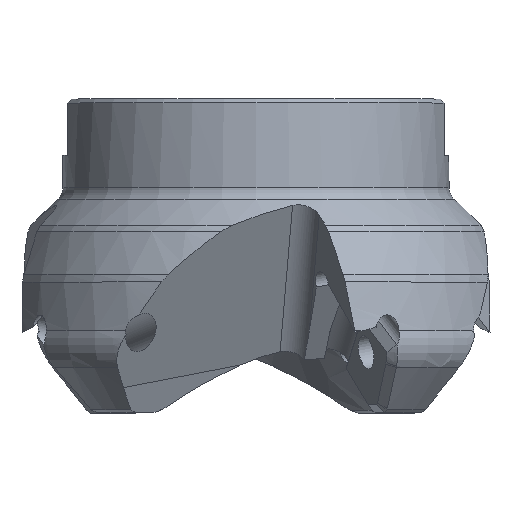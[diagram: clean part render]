
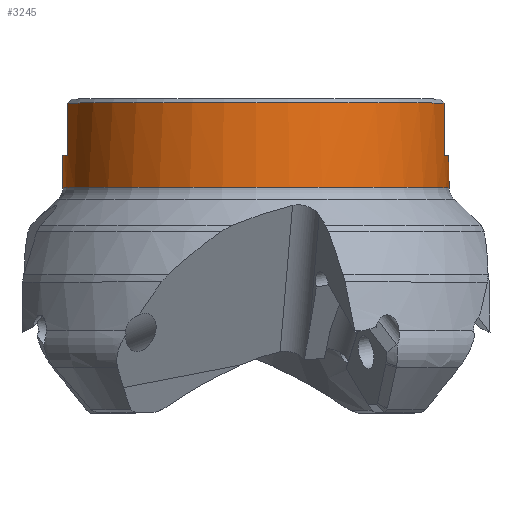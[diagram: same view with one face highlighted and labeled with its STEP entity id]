
A CAD part, top view. The second image highlights one B-rep face of the part: STEP entity #3245.
In plain terms, the highlighted cylindrical face has radius 24 mm (diameter 48 mm), a full revolution.
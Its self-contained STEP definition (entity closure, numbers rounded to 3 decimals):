
#120=CYLINDRICAL_SURFACE('',#3569,24.);
#195=CIRCLE('',#3508,24.);
#198=CIRCLE('',#3517,24.);
#209=CIRCLE('',#3546,24.);
#210=CIRCLE('',#3547,24.);
#211=CIRCLE('',#3549,24.);
#224=CIRCLE('',#3570,24.);
#225=CIRCLE('',#3571,24.);
#226=CIRCLE('',#3572,24.);
#375=LINE('',#6584,#517);
#376=LINE('',#6608,#518);
#387=LINE('',#6641,#529);
#388=LINE('',#6665,#530);
#404=LINE('',#6765,#546);
#517=VECTOR('',#4169,10.);
#518=VECTOR('',#4178,10.);
#529=VECTOR('',#4199,10.);
#530=VECTOR('',#4208,10.);
#546=VECTOR('',#4328,24.);
#855=FACE_OUTER_BOUND('',#1031,.T.);
#1031=EDGE_LOOP('',(#3032,#3033,#3034,#3035,#3036,#3037,#3038,#3039,#3040,
#3041,#3042,#3043,#3044,#3045));
#1463=VERTEX_POINT('',#6581);
#1464=VERTEX_POINT('',#6583);
#1465=VERTEX_POINT('',#6590);
#1469=VERTEX_POINT('',#6607);
#1479=VERTEX_POINT('',#6638);
#1480=VERTEX_POINT('',#6640);
#1481=VERTEX_POINT('',#6647);
#1485=VERTEX_POINT('',#6664);
#1497=VERTEX_POINT('',#6722);
#1509=VERTEX_POINT('',#6760);
#1510=VERTEX_POINT('',#6761);
#1511=VERTEX_POINT('',#6763);
#1949=EDGE_CURVE('',#1463,#1464,#375,.T.);
#1951=EDGE_CURVE('',#1464,#1465,#195,.T.);
#1956=EDGE_CURVE('',#1465,#1469,#376,.T.);
#1970=EDGE_CURVE('',#1479,#1480,#387,.T.);
#1972=EDGE_CURVE('',#1480,#1481,#198,.T.);
#1977=EDGE_CURVE('',#1481,#1485,#388,.T.);
#2004=EDGE_CURVE('',#1463,#1497,#209,.T.);
#2005=EDGE_CURVE('',#1497,#1485,#210,.T.);
#2006=EDGE_CURVE('',#1479,#1469,#211,.T.);
#2021=EDGE_CURVE('',#1509,#1510,#224,.T.);
#2022=EDGE_CURVE('',#1511,#1509,#225,.T.);
#2023=EDGE_CURVE('',#1511,#1497,#404,.T.);
#2024=EDGE_CURVE('',#1510,#1511,#226,.T.);
#3032=ORIENTED_EDGE('',*,*,#2021,.F.);
#3033=ORIENTED_EDGE('',*,*,#2022,.F.);
#3034=ORIENTED_EDGE('',*,*,#2023,.T.);
#3035=ORIENTED_EDGE('',*,*,#2005,.T.);
#3036=ORIENTED_EDGE('',*,*,#1977,.F.);
#3037=ORIENTED_EDGE('',*,*,#1972,.F.);
#3038=ORIENTED_EDGE('',*,*,#1970,.F.);
#3039=ORIENTED_EDGE('',*,*,#2006,.T.);
#3040=ORIENTED_EDGE('',*,*,#1956,.F.);
#3041=ORIENTED_EDGE('',*,*,#1951,.F.);
#3042=ORIENTED_EDGE('',*,*,#1949,.F.);
#3043=ORIENTED_EDGE('',*,*,#2004,.T.);
#3044=ORIENTED_EDGE('',*,*,#2023,.F.);
#3045=ORIENTED_EDGE('',*,*,#2024,.F.);
#3245=ADVANCED_FACE('',(#855),#120,.T.);
#3508=AXIS2_PLACEMENT_3D('',#6591,#4172,#4173);
#3517=AXIS2_PLACEMENT_3D('',#6648,#4202,#4203);
#3546=AXIS2_PLACEMENT_3D('',#6723,#4274,#4275);
#3547=AXIS2_PLACEMENT_3D('',#6724,#4276,#4277);
#3549=AXIS2_PLACEMENT_3D('',#6726,#4280,#4281);
#3569=AXIS2_PLACEMENT_3D('',#6759,#4322,#4323);
#3570=AXIS2_PLACEMENT_3D('',#6762,#4324,#4325);
#3571=AXIS2_PLACEMENT_3D('',#6764,#4326,#4327);
#3572=AXIS2_PLACEMENT_3D('',#6766,#4329,#4330);
#4169=DIRECTION('',(0.,1.,0.));
#4172=DIRECTION('center_axis',(0.,1.,0.));
#4173=DIRECTION('ref_axis',(1.,0.,0.));
#4178=DIRECTION('',(0.,-1.,0.));
#4199=DIRECTION('',(0.,1.,0.));
#4202=DIRECTION('center_axis',(0.,1.,0.));
#4203=DIRECTION('ref_axis',(1.,0.,0.));
#4208=DIRECTION('',(0.,-1.,0.));
#4274=DIRECTION('center_axis',(0.,-1.,0.));
#4275=DIRECTION('ref_axis',(1.,0.,0.));
#4276=DIRECTION('center_axis',(0.,-1.,0.));
#4277=DIRECTION('ref_axis',(1.,0.,0.));
#4280=DIRECTION('center_axis',(0.,-1.,0.));
#4281=DIRECTION('ref_axis',(1.,0.,0.));
#4322=DIRECTION('center_axis',(0.,-1.,0.));
#4323=DIRECTION('ref_axis',(1.,0.,0.));
#4324=DIRECTION('center_axis',(0.,-1.,0.));
#4325=DIRECTION('ref_axis',(1.,0.,0.));
#4326=DIRECTION('center_axis',(0.,-1.,0.));
#4327=DIRECTION('ref_axis',(1.,0.,0.));
#4328=DIRECTION('',(0.,1.,0.));
#4329=DIRECTION('center_axis',(0.,-1.,0.));
#4330=DIRECTION('ref_axis',(1.,0.,0.));
#6581=CARTESIAN_POINT('',(-23.364,32.,5.488));
#6583=CARTESIAN_POINT('',(-23.364,38.5,5.488));
#6584=CARTESIAN_POINT('',(-23.364,33.5,5.488));
#6590=CARTESIAN_POINT('',(23.364,38.5,5.488));
#6591=CARTESIAN_POINT('Origin',(0.,38.5,0.));
#6607=CARTESIAN_POINT('',(23.364,32.,5.488));
#6608=CARTESIAN_POINT('',(23.364,33.5,5.488));
#6638=CARTESIAN_POINT('',(23.364,32.,-5.488));
#6640=CARTESIAN_POINT('',(23.364,38.5,-5.488));
#6641=CARTESIAN_POINT('',(23.364,33.5,-5.488));
#6647=CARTESIAN_POINT('',(-23.364,38.5,-5.488));
#6648=CARTESIAN_POINT('Origin',(0.,38.5,0.));
#6664=CARTESIAN_POINT('',(-23.364,32.,-5.488));
#6665=CARTESIAN_POINT('',(-23.364,33.5,-5.488));
#6722=CARTESIAN_POINT('',(-24.,32.,0.));
#6723=CARTESIAN_POINT('Origin',(0.,32.,0.));
#6724=CARTESIAN_POINT('Origin',(0.,32.,0.));
#6726=CARTESIAN_POINT('Origin',(0.,32.,0.));
#6759=CARTESIAN_POINT('Origin',(0.,33.5,0.));
#6760=CARTESIAN_POINT('',(24.,28.,0.));
#6761=CARTESIAN_POINT('',(0.,28.,24.));
#6762=CARTESIAN_POINT('Origin',(0.,28.,0.));
#6763=CARTESIAN_POINT('',(-24.,28.,0.));
#6764=CARTESIAN_POINT('Origin',(0.,28.,0.));
#6765=CARTESIAN_POINT('',(-24.,33.5,0.));
#6766=CARTESIAN_POINT('Origin',(0.,28.,0.));
